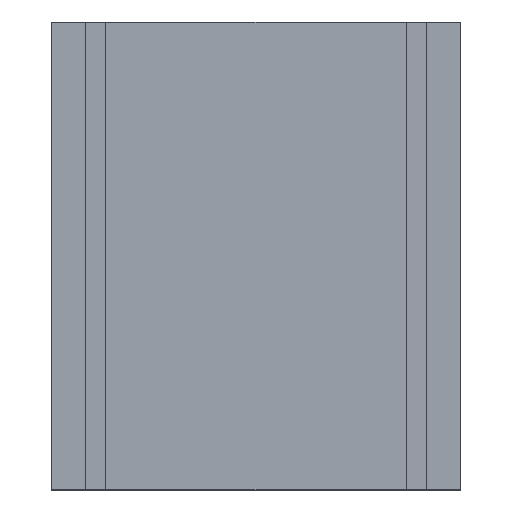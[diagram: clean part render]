
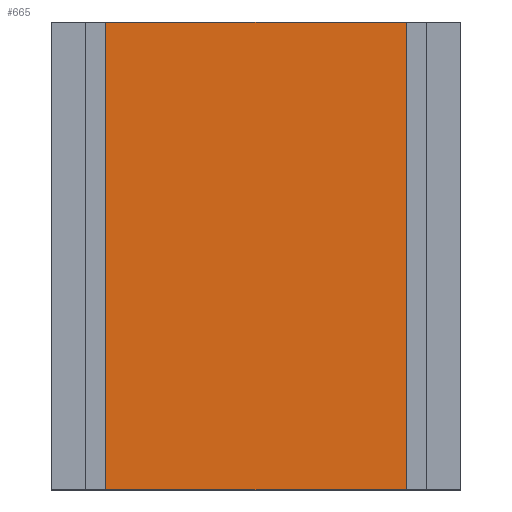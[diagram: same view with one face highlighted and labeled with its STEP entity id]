
A CAD part, top view. The second image highlights one B-rep face of the part: STEP entity #665.
In plain terms, the highlighted planar face has unit normal (0, 0, 1).
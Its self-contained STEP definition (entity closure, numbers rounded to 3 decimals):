
#79=CARTESIAN_POINT('Vertex',(1020.,406.455,-272.)) ;
#82=CARTESIAN_POINT('Line Origine',(800.,406.455,-272.)) ;
#86=CARTESIAN_POINT('Vertex',(580.,406.455,-272.)) ;
#328=CARTESIAN_POINT('Vertex',(580.,1092.5,-272.)) ;
#331=CARTESIAN_POINT('Line Origine',(800.,1092.5,-272.)) ;
#335=CARTESIAN_POINT('Vertex',(1020.,1092.5,-272.)) ;
#574=CARTESIAN_POINT('Axis2P3D Location',(500.,306.455,-272.)) ;
#642=CARTESIAN_POINT('Line Origine',(580.,749.477,-272.)) ;
#654=CARTESIAN_POINT('Line Origine',(1020.,749.477,-272.)) ;
#83=DIRECTION('Vector Direction',(-1.,0.,0.)) ;
#332=DIRECTION('Vector Direction',(1.,0.,0.)) ;
#575=DIRECTION('Axis2P3D Direction',(0.,0.,-1.)) ;
#576=DIRECTION('Axis2P3D XDirection',(0.,1.,0.)) ;
#643=DIRECTION('Vector Direction',(0.,1.,0.)) ;
#655=DIRECTION('Vector Direction',(0.,1.,0.)) ;
#577=AXIS2_PLACEMENT_3D('Plane Axis2P3D',#574,#575,#576) ;
#660=ORIENTED_EDGE('',*,*,#88,.F.) ;
#661=ORIENTED_EDGE('',*,*,#658,.T.) ;
#662=ORIENTED_EDGE('',*,*,#337,.F.) ;
#663=ORIENTED_EDGE('',*,*,#646,.F.) ;
#84=VECTOR('Line Direction',#83,1.) ;
#333=VECTOR('Line Direction',#332,1.) ;
#644=VECTOR('Line Direction',#643,1.) ;
#656=VECTOR('Line Direction',#655,1.) ;
#665=ADVANCED_FACE('',(#664),#578,.F.) ;
#88=EDGE_CURVE('',#80,#87,#85,.T.) ;
#337=EDGE_CURVE('',#329,#336,#334,.T.) ;
#646=EDGE_CURVE('',#87,#329,#645,.T.) ;
#658=EDGE_CURVE('',#80,#336,#657,.T.) ;
#659=EDGE_LOOP('',(#660,#661,#662,#663)) ;
#664=FACE_OUTER_BOUND('',#659,.T.) ;
#85=LINE('Line',#82,#84) ;
#334=LINE('Line',#331,#333) ;
#645=LINE('Line',#642,#644) ;
#657=LINE('Line',#654,#656) ;
#578=PLANE('Plane',#577) ;
#80=VERTEX_POINT('',#79) ;
#87=VERTEX_POINT('',#86) ;
#329=VERTEX_POINT('',#328) ;
#336=VERTEX_POINT('',#335) ;
